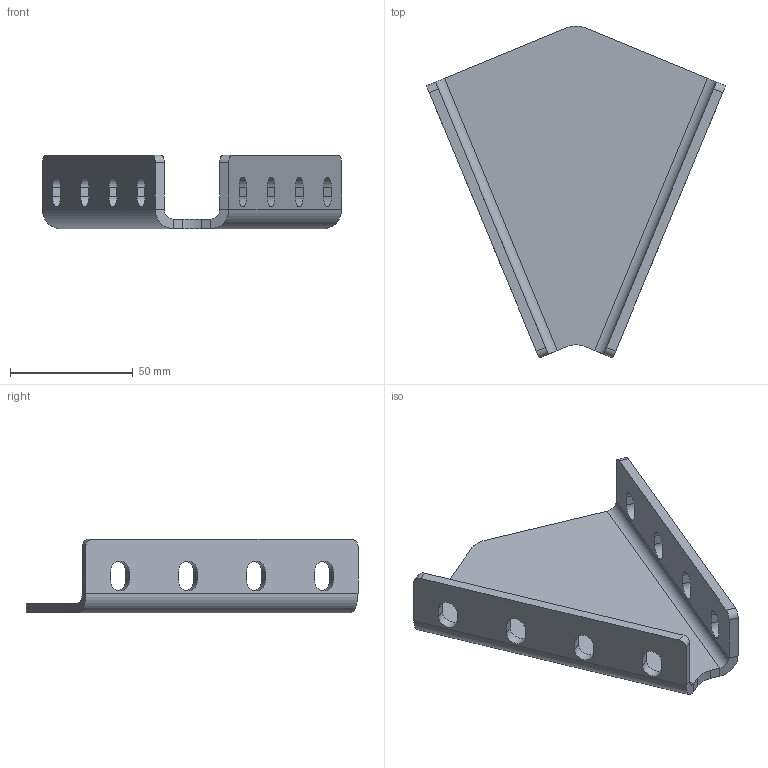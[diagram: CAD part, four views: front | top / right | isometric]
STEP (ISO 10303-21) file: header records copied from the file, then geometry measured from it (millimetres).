
FILE_DESCRIPTION (( 'STEP AP214' ), '1' );
FILE_NAME ('3012045.STEP', '2019-11-01T13:43:57', ( '' ), ( '' ), 'SwSTEP 2.0', 'SolidWorks 2014', '' );
FILE_SCHEMA (( 'AUTOMOTIVE_DESIGN' ));
Length unit declared in the file: millimetre
Products named in the file (2): 3012045
Bounding box: 121.84 x 135.25 x 30 mm (x, y, z)
Volume: 59162.5 mm3; surface area: 32629.8 mm2
Topology: 1 solids, 1 shells, 62 faces, 164 edges, 104 vertices
Faces by surface type: plane 36, cylinder 26
Entity records: 1993 total; most frequent: DIRECTION 344, CARTESIAN_POINT 332, ORIENTED_EDGE 328, EDGE_CURVE 164, AXIS2_PLACEMENT_3D 116, VECTOR 112, LINE 112, VERTEX_POINT 104
